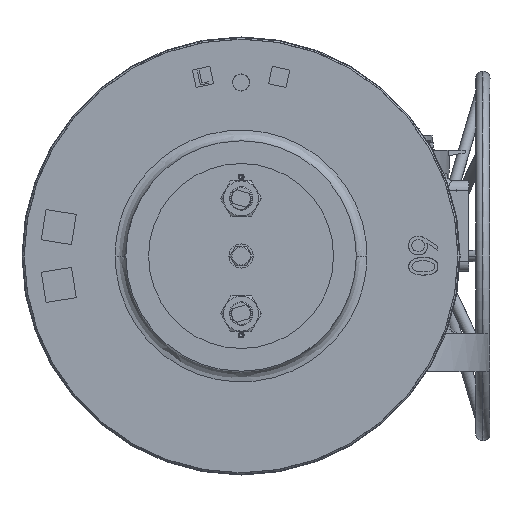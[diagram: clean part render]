
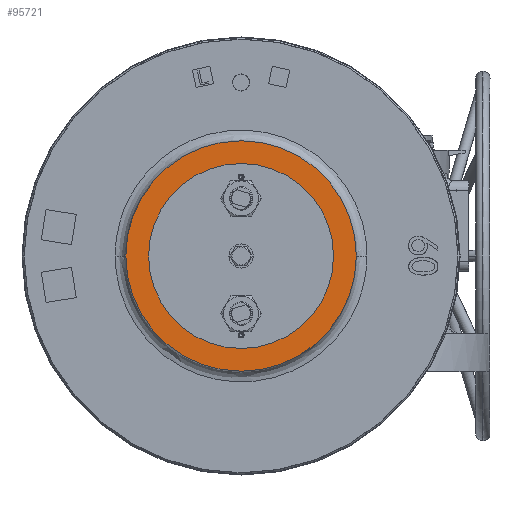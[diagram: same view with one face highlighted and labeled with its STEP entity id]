
A CAD part, left-side view. The second image highlights one B-rep face of the part: STEP entity #95721.
In plain terms, the highlighted planar face has unit normal (-1, 0, 0).
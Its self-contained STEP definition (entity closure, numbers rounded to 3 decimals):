
#3102 = VERTEX_POINT ( 'NONE', #11302 ) ;
#6625 = DIRECTION ( 'NONE',  ( 1., 0., 0. ) ) ;
#7649 = CARTESIAN_POINT ( 'NONE',  ( -849.5, 140., -49. ) ) ;
#11302 = CARTESIAN_POINT ( 'NONE',  ( -849.5, 140., -17. ) ) ;
#11401 = DIRECTION ( 'NONE',  ( 1., 0., 0. ) ) ;
#25571 = CARTESIAN_POINT ( 'NONE',  ( -849.5, 140., 113. ) ) ;
#27914 = FACE_OUTER_BOUND ( 'NONE', #66702, .T. ) ;
#28126 = CIRCLE ( 'NONE', #124903, 162. ) ;
#29543 = DIRECTION ( 'NONE',  ( 0., 0., -1. ) ) ;
#30418 = FACE_BOUND ( 'NONE', #33399, .T. ) ;
#31389 = CARTESIAN_POINT ( 'NONE',  ( -849.5, 140., 113. ) ) ;
#33399 = EDGE_LOOP ( 'NONE', ( #36150, #90363 ) ) ;
#36150 = ORIENTED_EDGE ( 'NONE', *, *, #80787, .F. ) ;
#39630 = EDGE_CURVE ( 'NONE', #116538, #3102, #77062, .T. ) ;
#42031 = CARTESIAN_POINT ( 'NONE',  ( -849.5, 140., 113. ) ) ;
#45103 = AXIS2_PLACEMENT_3D ( 'NONE', #107425, #11401, #49949 ) ;
#49949 = DIRECTION ( 'NONE',  ( 0., 0., -1. ) ) ;
#55264 = CIRCLE ( 'NONE', #109762, 162. ) ;
#60323 = CIRCLE ( 'NONE', #108432, 130. ) ;
#61231 = DIRECTION ( 'NONE',  ( 1., 0., 0. ) ) ;
#62837 = DIRECTION ( 'NONE',  ( -1., 0., 0. ) ) ;
#66702 = EDGE_LOOP ( 'NONE', ( #111979, #109574 ) ) ;
#70725 = CARTESIAN_POINT ( 'NONE',  ( -849.5, 140., 113. ) ) ;
#77062 = CIRCLE ( 'NONE', #121354, 130. ) ;
#80787 = EDGE_CURVE ( 'NONE', #3102, #116538, #60323, .T. ) ;
#81484 = CARTESIAN_POINT ( 'NONE',  ( -849.5, 140., 275. ) ) ;
#85262 = CARTESIAN_POINT ( 'NONE',  ( -849.5, 140., 243. ) ) ;
#90363 = ORIENTED_EDGE ( 'NONE', *, *, #39630, .F. ) ;
#94181 = VERTEX_POINT ( 'NONE', #7649 ) ;
#95721 = ADVANCED_FACE ( 'NONE', ( #30418, #27914 ), #97923, .F. ) ;
#95763 = VERTEX_POINT ( 'NONE', #81484 ) ;
#96476 = EDGE_CURVE ( 'NONE', #94181, #95763, #55264, .T. ) ;
#97690 = DIRECTION ( 'NONE',  ( -1., 0., 0. ) ) ;
#97923 = PLANE ( 'NONE',  #45103 ) ;
#101357 = DIRECTION ( 'NONE',  ( 0., 0., 1. ) ) ;
#103915 = DIRECTION ( 'NONE',  ( 0., 0., 1. ) ) ;
#105291 = EDGE_CURVE ( 'NONE', #95763, #94181, #28126, .T. ) ;
#107425 = CARTESIAN_POINT ( 'NONE',  ( -849.5, 140., 113. ) ) ;
#108432 = AXIS2_PLACEMENT_3D ( 'NONE', #31389, #97690, #29543 ) ;
#108929 = DIRECTION ( 'NONE',  ( 0., 0., -1. ) ) ;
#109574 = ORIENTED_EDGE ( 'NONE', *, *, #96476, .F. ) ;
#109762 = AXIS2_PLACEMENT_3D ( 'NONE', #25571, #6625, #101357 ) ;
#111979 = ORIENTED_EDGE ( 'NONE', *, *, #105291, .F. ) ;
#116538 = VERTEX_POINT ( 'NONE', #85262 ) ;
#121354 = AXIS2_PLACEMENT_3D ( 'NONE', #42031, #62837, #108929 ) ;
#124903 = AXIS2_PLACEMENT_3D ( 'NONE', #70725, #61231, #103915 ) ;
